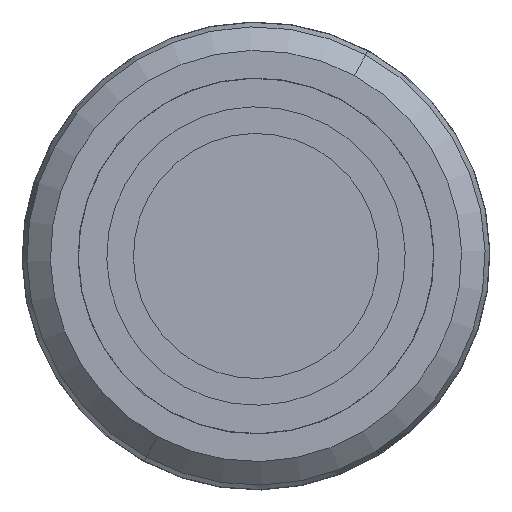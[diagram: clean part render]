
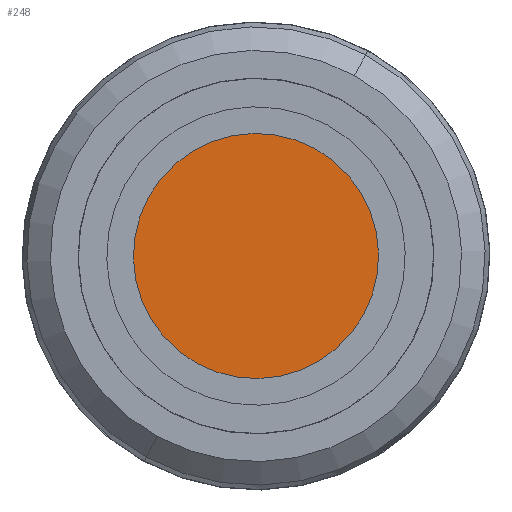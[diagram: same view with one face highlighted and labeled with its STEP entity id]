
A CAD part, left-side view. The second image highlights one B-rep face of the part: STEP entity #248.
In plain terms, the highlighted planar face has unit normal (-1, 0, 0).
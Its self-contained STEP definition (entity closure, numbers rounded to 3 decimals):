
#248=ADVANCED_FACE('',(#501),#502,.T.);
#501=FACE_OUTER_BOUND('',#1360,.T.);
#502=PLANE('',#1361);
#1360=EDGE_LOOP('',(#2078,#2079,#2080));
#1361=AXIS2_PLACEMENT_3D('',#2081,#2082,#2083);
#2078=ORIENTED_EDGE('',*,*,#2393,.T.);
#2079=ORIENTED_EDGE('',*,*,#2112,.T.);
#2080=ORIENTED_EDGE('',*,*,#2394,.T.);
#2081=CARTESIAN_POINT('',(0.,0.,0.));
#2082=DIRECTION('',(-1.0,0.,0.));
#2083=DIRECTION('',(0.,0.0,1.0));
#2112=EDGE_CURVE('',#2402,#2406,#2408,.T.);
#2393=EDGE_CURVE('',#2831,#2402,#2832,.T.);
#2394=EDGE_CURVE('',#2406,#2831,#2833,.T.);
#2402=VERTEX_POINT('',#2841);
#2406=VERTEX_POINT('',#2846);
#2408=CIRCLE('',#2849,17.25);
#2831=VERTEX_POINT('',#3911);
#2832=CIRCLE('',#3912,17.25);
#2833=CIRCLE('',#3913,17.25);
#2841=CARTESIAN_POINT('',(0.,-8.258,15.145));
#2846=CARTESIAN_POINT('',(0.,8.258,-15.145));
#2849=AXIS2_PLACEMENT_3D('',#3924,#3925,#3926);
#3911=CARTESIAN_POINT('',(0.,-15.145,-8.258));
#3912=AXIS2_PLACEMENT_3D('',#4203,#4204,#4205);
#3913=AXIS2_PLACEMENT_3D('',#4206,#4207,#4208);
#3924=CARTESIAN_POINT('',(0.,0.,0.));
#3925=DIRECTION('',(-1.0,0.,0.));
#3926=DIRECTION('',(0.,0.878,0.479));
#4203=CARTESIAN_POINT('',(0.,0.,0.));
#4204=DIRECTION('',(-1.0,0.,0.));
#4205=DIRECTION('',(0.,0.878,0.479));
#4206=CARTESIAN_POINT('',(0.,0.,0.));
#4207=DIRECTION('',(-1.0,0.,0.));
#4208=DIRECTION('',(0.,0.878,0.479));
